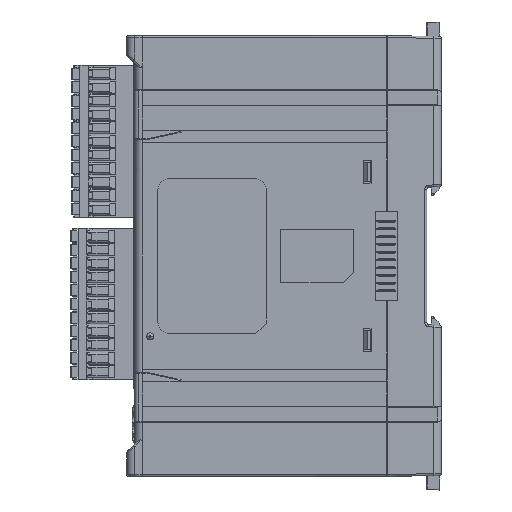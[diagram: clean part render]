
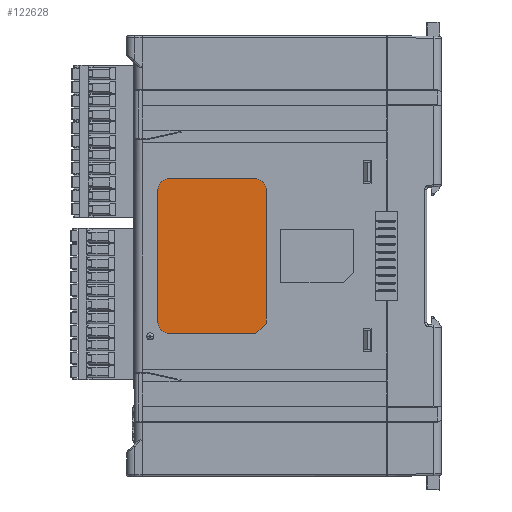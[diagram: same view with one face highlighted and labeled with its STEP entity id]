
A CAD part, left-side view. The second image highlights one B-rep face of the part: STEP entity #122628.
In plain terms, the highlighted planar face has unit normal (-1, 0, 0).
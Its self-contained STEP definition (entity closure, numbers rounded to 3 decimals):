
#25089=DIRECTION('',(0.,-1.,0.));
#25090=VECTOR('',#25089,22.);
#25091=CARTESIAN_POINT('',(-14.8,69.,20.));
#25092=LINE('',#25091,#25090);
#25096=CARTESIAN_POINT('',(-14.8,47.,17.));
#25097=DIRECTION('',(1.,0.,0.));
#25098=DIRECTION('',(0.,0.,1.));
#25099=AXIS2_PLACEMENT_3D('',#25096,#25097,#25098);
#25104=DIRECTION('',(0.,0.,-1.));
#25105=VECTOR('',#25104,34.3);
#25106=CARTESIAN_POINT('',(-14.8,44.,17.));
#25107=LINE('',#25106,#25105);
#25111=DIRECTION('',(0.,0.707,-0.707));
#25112=VECTOR('',#25111,3.818);
#25113=CARTESIAN_POINT('',(-14.8,44.,-17.3));
#25114=LINE('',#25113,#25112);
#25118=DIRECTION('',(0.,1.,0.));
#25119=VECTOR('',#25118,22.3);
#25120=CARTESIAN_POINT('',(-14.8,46.7,-20.));
#25121=LINE('',#25120,#25119);
#25125=CARTESIAN_POINT('',(-14.8,69.,-17.));
#25126=DIRECTION('',(1.,0.,0.));
#25127=DIRECTION('',(0.,0.,-1.));
#25128=AXIS2_PLACEMENT_3D('',#25125,#25126,#25127);
#25133=DIRECTION('',(0.,0.,1.));
#25134=VECTOR('',#25133,34.);
#25135=CARTESIAN_POINT('',(-14.8,72.,-17.));
#25136=LINE('',#25135,#25134);
#25140=CARTESIAN_POINT('',(-14.8,69.,17.));
#25141=DIRECTION('',(1.,0.,0.));
#25142=DIRECTION('',(0.,1.,0.));
#25143=AXIS2_PLACEMENT_3D('',#25140,#25141,#25142);
#79238=CARTESIAN_POINT('',(-14.8,44.,17.));
#79239=VERTEX_POINT('',#79238);
#79240=CARTESIAN_POINT('',(-14.8,44.,-17.3));
#79241=VERTEX_POINT('',#79240);
#79242=CARTESIAN_POINT('',(-14.8,47.,20.));
#79243=VERTEX_POINT('',#79242);
#79244=CARTESIAN_POINT('',(-14.8,69.,20.));
#79245=VERTEX_POINT('',#79244);
#79246=CARTESIAN_POINT('',(-14.8,72.,17.));
#79247=VERTEX_POINT('',#79246);
#79248=CARTESIAN_POINT('',(-14.8,72.,-17.));
#79249=VERTEX_POINT('',#79248);
#79250=CARTESIAN_POINT('',(-14.8,69.,-20.));
#79251=VERTEX_POINT('',#79250);
#79252=CARTESIAN_POINT('',(-14.8,46.7,-20.));
#79253=VERTEX_POINT('',#79252);
#122612=CARTESIAN_POINT('',(-14.8,80.,0.));
#122613=DIRECTION('',(-1.,0.,0.));
#122614=DIRECTION('',(0.,1.,0.));
#122615=AXIS2_PLACEMENT_3D('',#122612,#122613,#122614);
#122616=PLANE('',#122615);
#122617=ORIENTED_EDGE('',*,*,#122491,.T.);
#122618=ORIENTED_EDGE('',*,*,#122465,.T.);
#122619=ORIENTED_EDGE('',*,*,#122439,.T.);
#122621=ORIENTED_EDGE('',*,*,#122620,.T.);
#122622=ORIENTED_EDGE('',*,*,#122592,.T.);
#122623=ORIENTED_EDGE('',*,*,#122569,.T.);
#122624=ORIENTED_EDGE('',*,*,#122543,.T.);
#122625=ORIENTED_EDGE('',*,*,#122517,.T.);
#122626=EDGE_LOOP('',(#122617,#122618,#122619,#122621,#122622,#122623,#122624,
#122625));
#122627=FACE_OUTER_BOUND('',#122626,.F.);
#122628=ADVANCED_FACE('',(#122627),#122616,.T.);
#25100=CIRCLE('',#25099,3.);
#25129=CIRCLE('',#25128,3.);
#25144=CIRCLE('',#25143,3.);
#122439=EDGE_CURVE('',#79239,#79241,#25107,.T.);
#122465=EDGE_CURVE('',#79243,#79239,#25100,.T.);
#122491=EDGE_CURVE('',#79245,#79243,#25092,.T.);
#122517=EDGE_CURVE('',#79247,#79245,#25144,.T.);
#122543=EDGE_CURVE('',#79249,#79247,#25136,.T.);
#122569=EDGE_CURVE('',#79251,#79249,#25129,.T.);
#122592=EDGE_CURVE('',#79253,#79251,#25121,.T.);
#122620=EDGE_CURVE('',#79241,#79253,#25114,.T.);
